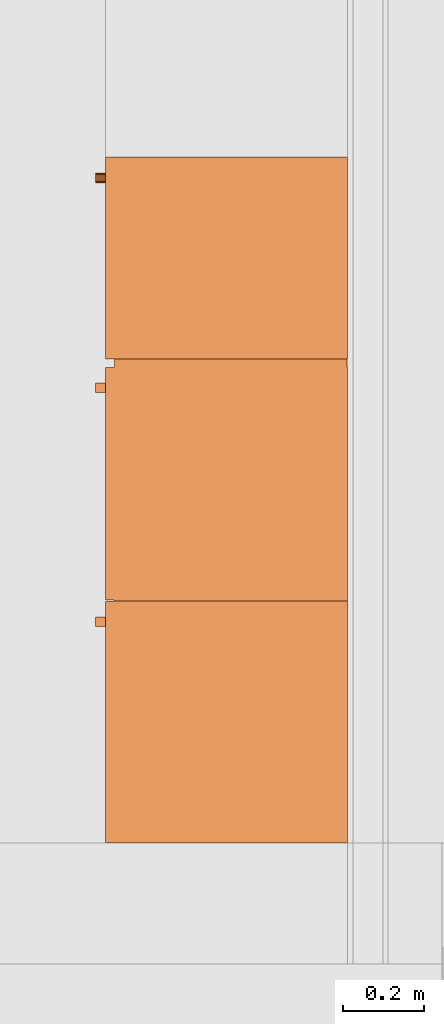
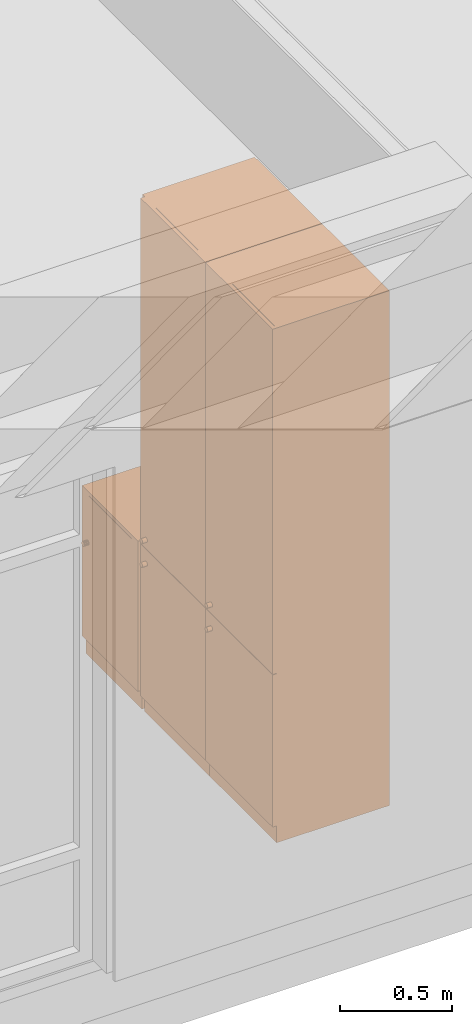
# One storey, part 80 of 167: 3 proxies.
"""IFC2X3 building model written with IfcOpenShell, lengths in millimetres."""

from ifc_helpers import new_model, entity, si_unit, converted_unit, derived_unit, money_unit, direction, frame, origin_with_axes, place, context, subcontext, project, spatial, faceted_brep, source, transform, mapped, type_object, type_shapes, element, save


model = new_model("IFC2X3")

# Units and contexts
model_context = context("Model", 3, precision=0.01, world=origin_with_axes(), true_north=direction((0.0, 1.0)))
plan_context = context("Plan", 3, precision=0.01, world=origin_with_axes(), true_north=direction((0.0, 1.0)))
body_context = subcontext(model_context, "Body", "Model", "MODEL_VIEW")
ifc_project = project(units=[si_unit("LENGTHUNIT", "METRE", prefix="MILLI"), si_unit("AREAUNIT", "SQUARE_METRE"), si_unit("VOLUMEUNIT", "CUBIC_METRE"), converted_unit("PLANEANGLEUNIT", "DEGREE", entity("IfcPlaneAngleMeasure", 0.0174532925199), si_unit("PLANEANGLEUNIT", "RADIAN"), dimensions=[0, 0, 0, 0, 0, 0, 0]), si_unit("SOLIDANGLEUNIT", "STERADIAN"), money_unit("EUR"), converted_unit("TIMEUNIT", "Year", entity("IfcTimeMeasure", 31556926.0), si_unit("TIMEUNIT", "SECOND"), dimensions=[0, 0, 1, 0, 0, 0, 0]), si_unit("MASSUNIT", "GRAM", prefix="KILO"), si_unit("THERMODYNAMICTEMPERATUREUNIT", "DEGREE_CELSIUS"), si_unit("LUMINOUSINTENSITYUNIT", "LUMEN"), si_unit("ENERGYUNIT", "JOULE", prefix="MEGA"), derived_unit("THERMALCONDUCTANCEUNIT", [(si_unit("POWERUNIT", "WATT"), 1), (si_unit("LENGTHUNIT", "METRE"), -1), (si_unit("THERMODYNAMICTEMPERATUREUNIT", "KELVIN"), -1)]), derived_unit("SPECIFICHEATCAPACITYUNIT", [(si_unit("ENERGYUNIT", "JOULE"), 1), (si_unit("MASSUNIT", "GRAM", prefix="KILO"), -1), (si_unit("THERMODYNAMICTEMPERATUREUNIT", "KELVIN"), -1)]), derived_unit("MASSDENSITYUNIT", [(si_unit("MASSUNIT", "GRAM", prefix="KILO"), 1), (si_unit("VOLUMEUNIT", "CUBIC_METRE"), -1)])], contexts=[model_context, plan_context])

# Site, building, storey
site_placement = place(None, origin_with_axes())
site = spatial("IfcSite", under=ifc_project, at=site_placement, Name="Site", CompositionType="ELEMENT")
building_placement = place(site_placement, origin_with_axes())
building = spatial("IfcBuilding", under=site, at=building_placement, Name="Naam gebouw", CompositionType="ELEMENT")
storey_placement = place(building_placement, origin_with_axes())
storey = spatial("IfcBuildingStorey", under=building, at=storey_placement, Name="Begane grond", CompositionType="ELEMENT", Elevation=0.0)

# Proxies
building_element_proxy_type_1 = type_object("IfcBuildingElementProxyType", Name="Kast basis 1D 24", PredefinedType="NOTDEFINED")
shared_shape_1 = source(origin_with_axes(), body_context, "Body", "Brep", [
    faceted_brep([(0.0, 20.0, 0.0), (0.0, 20.0, 100.0), (-500.0, 20.0, 100.0), (-500.0, 20.0, 0.0), (0.0, 600.0, 0.0), (0.0, 600.0, 100.0), (-500.0, 600.0, 100.0), (-500.0, 600.0, 0.0)], [[[0, 1, 2, 3]], [[4, 5, 1, 0]], [[1, 5, 6, 2]], [[3, 2, 6, 7]], [[0, 3, 7, 4]], [[7, 6, 5, 4]]]),
    faceted_brep([(0.0, 20.0, 880.0), (0.0, 20.0, 900.0), (-20.0, 20.0, 900.0), (-20.0, 20.0, 880.0), (0.0, 600.0, 880.0), (0.0, 600.0, 900.0), (-20.0, 600.0, 900.0), (-480.0, 600.0, 900.0), (-500.0, 600.0, 900.0), (-500.0, 20.0, 900.0), (-480.0, 20.0, 900.0), (-480.0, 20.0, 880.0), (-500.0, 20.0, 880.0), (-500.0, 600.0, 880.0), (-480.0, 600.0, 880.0), (-20.0, 600.0, 880.0)], [[[0, 1, 2, 3]], [[4, 5, 1, 0]], [[1, 5, 6, 7, 8, 9, 10, 2]], [[3, 2, 10, 11]], [[0, 3, 11, 12, 13, 14, 15, 4]], [[15, 6, 5, 4]], [[14, 7, 6, 15]], [[13, 8, 7, 14]], [[12, 9, 8, 13]], [[11, 10, 9, 12]]]),
    faceted_brep([(0.0, 20.0, 100.0), (0.0, 20.0, 120.0), (-20.0, 20.0, 120.0), (-20.0, 20.0, 100.0), (0.0, 600.0, 100.0), (0.0, 600.0, 120.0), (-20.0, 600.0, 120.0), (-480.0, 600.0, 120.0), (-500.0, 600.0, 120.0), (-500.0, 20.0, 120.0), (-480.0, 20.0, 120.0), (-480.0, 20.0, 100.0), (-500.0, 20.0, 100.0), (-500.0, 600.0, 100.0), (-480.0, 600.0, 100.0), (-20.0, 600.0, 100.0)], [[[0, 1, 2, 3]], [[4, 5, 1, 0]], [[1, 5, 6, 7, 8, 9, 10, 2]], [[3, 2, 10, 11]], [[0, 3, 11, 12, 13, 14, 15, 4]], [[15, 6, 5, 4]], [[14, 7, 6, 15]], [[13, 8, 7, 14]], [[12, 9, 8, 13]], [[11, 10, 9, 12]]]),
    faceted_brep([(0.0, 20.0, 120.0), (0.0, 20.0, 880.0), (-20.0, 20.0, 880.0), (-20.0, 20.0, 120.0), (0.0, 600.0, 120.0), (0.0, 600.0, 880.0), (-500.0, 600.0, 880.0), (-500.0, 20.0, 880.0), (-480.0, 20.0, 880.0), (-480.0, 580.0, 880.0), (-20.0, 580.0, 880.0), (-20.0, 580.0, 120.0), (-480.0, 580.0, 120.0), (-480.0, 20.0, 120.0), (-500.0, 20.0, 120.0), (-500.0, 600.0, 120.0)], [[[0, 1, 2, 3]], [[4, 5, 1, 0]], [[1, 5, 6, 7, 8, 9, 10, 2]], [[3, 2, 10, 11]], [[0, 3, 11, 12, 13, 14, 15, 4]], [[15, 6, 5, 4]], [[14, 7, 6, 15]], [[13, 8, 7, 14]], [[12, 9, 8, 13]], [[11, 10, 9, 12]]]),
    faceted_brep([(-480.0, 20.0, 480.0), (-480.0, 20.0, 500.0), (-480.0, 580.0, 500.0), (-480.0, 580.0, 480.0), (-20.0, 20.0, 480.0), (-20.0, 20.0, 500.0), (-20.0, 580.0, 500.0), (-20.0, 580.0, 480.0)], [[[0, 1, 2, 3]], [[4, 5, 1, 0]], [[1, 5, 6, 2]], [[3, 2, 6, 7]], [[0, 3, 7, 4]], [[7, 6, 5, 4]]]),
    faceted_brep([(0.0, 0.0, 900.0), (0.0, 0.0, 920.0), (-500.0, 0.0, 920.0), (-500.0, 0.0, 900.0), (0.0, 600.0, 900.0), (0.0, 600.0, 920.0), (-500.0, 600.0, 920.0), (-500.0, 600.0, 900.0)], [[[0, 1, 2, 3]], [[4, 5, 1, 0]], [[1, 5, 6, 2]], [[3, 2, 6, 7]], [[0, 3, 7, 4]], [[7, 6, 5, 4]]]),
    faceted_brep([(-1.5, 20.0, 101.5), (-1.5, 0.0, 101.5), (-498.5, 0.0, 101.5), (-498.5, 20.0, 101.5), (-1.5, 20.0, 898.5), (-1.5, 0.0, 898.5), (-498.5, 0.0, 898.5), (-498.5, 20.0, 898.5)], [[[0, 1, 2, 3]], [[4, 5, 1, 0]], [[1, 5, 6, 2]], [[3, 2, 6, 7]], [[0, 3, 7, 4]], [[7, 6, 5, 4]]]),
    faceted_brep([(-459.58655439, 0.0, 636.907798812), (-460.5, 0.0, 641.5), (-459.58655439, 0.0, 646.092201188), (-456.985281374, 0.0, 649.985281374), (-453.092201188, 0.0, 652.58655439), (-448.5, 0.0, 653.5), (-443.907798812, 0.0, 652.58655439), (-440.014718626, 0.0, 649.985281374), (-437.41344561, 0.0, 646.092201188), (-436.5, 0.0, 641.5), (-437.41344561, 0.0, 636.907798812), (-440.014718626, 0.0, 633.014718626), (-443.907798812, 0.0, 630.41344561), (-448.5, 0.0, 629.5), (-453.092201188, 0.0, 630.41344561), (-456.985281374, 0.0, 633.014718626), (-459.58655439, -25.0, 636.907798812), (-460.5, -25.0, 641.5), (-459.58655439, -25.0, 646.092201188), (-456.985281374, -25.0, 649.985281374), (-453.092201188, -25.0, 652.58655439), (-448.5, -25.0, 653.5), (-443.907798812, -25.0, 652.58655439), (-440.014718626, -25.0, 649.985281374), (-437.41344561, -25.0, 646.092201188), (-436.5, -25.0, 641.5), (-437.41344561, -25.0, 636.907798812), (-440.014718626, -25.0, 633.014718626), (-443.907798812, -25.0, 630.41344561), (-448.5, -25.0, 629.5), (-453.092201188, -25.0, 630.41344561), (-456.985281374, -25.0, 633.014718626)], [[[0, 1, 2, 3, 4, 5, 6, 7, 8, 9, 10, 11, 12, 13, 14, 15]], [[0, 16, 17, 1]], [[1, 17, 18, 2]], [[2, 18, 19, 3]], [[3, 19, 20, 4]], [[4, 20, 21, 5]], [[5, 21, 22, 6]], [[6, 22, 23, 7]], [[7, 23, 24, 8]], [[8, 24, 25, 9]], [[9, 25, 26, 10]], [[10, 26, 27, 11]], [[11, 27, 28, 12]], [[12, 28, 29, 13]], [[13, 29, 30, 14]], [[14, 30, 31, 15]], [[15, 31, 16, 0]], [[16, 31, 30, 29, 28, 27, 26, 25, 24, 23, 22, 21, 20, 19, 18, 17]]]),
])
type_shapes(building_element_proxy_type_1, [shared_shape_1])
proxy_1_placement = place(storey_placement, frame((9881.82723445, 2100.0, 0.0), z_axis=(0.0, 0.0, 1.0), x_axis=(0.0, -1.0, 0.0)))
element("IfcBuildingElementProxy", 1, at=proxy_1_placement, inside=storey, type_object=building_element_proxy_type_1, Name="__Object-x", context=body_context, shape_type="MappedRepresentation", body=[
    mapped(shared_shape_1, transform((0.0, 0.0, 0.0))),
])
building_element_proxy_type_2 = type_object("IfcBuildingElementProxyType", Name="Kast hoog 1D 24", PredefinedType="NOTDEFINED")
shared_shape_2 = source(origin_with_axes(), body_context, "Body", "Brep", [
    faceted_brep([(-20.0, 20.0, 910.0), (-20.0, 20.0, 930.0), (-580.0, 20.0, 930.0), (-580.0, 20.0, 910.0), (-20.0, 580.0, 910.0), (-20.0, 580.0, 930.0), (-580.0, 580.0, 930.0), (-580.0, 580.0, 910.0)], [[[0, 1, 2, 3]], [[4, 5, 1, 0]], [[1, 5, 6, 2]], [[3, 2, 6, 7]], [[0, 3, 7, 4]], [[7, 6, 5, 4]]]),
    faceted_brep([(0.0, 20.0, 0.0), (0.0, 20.0, 90.0), (-600.0, 20.0, 90.0), (-600.0, 20.0, 0.0), (0.0, 600.0, 0.0), (0.0, 600.0, 90.0), (-600.0, 600.0, 90.0), (-600.0, 600.0, 0.0)], [[[0, 1, 2, 3]], [[4, 5, 1, 0]], [[1, 5, 6, 2]], [[3, 2, 6, 7]], [[0, 3, 7, 4]], [[7, 6, 5, 4]]]),
    faceted_brep([(0.0, 20.0, 2780.0), (0.0, 20.0, 2800.0), (-20.0, 20.0, 2800.0), (-20.0, 20.0, 2780.0), (0.0, 600.0, 2780.0), (0.0, 600.0, 2800.0), (-20.0, 600.0, 2800.0), (-580.0, 600.0, 2800.0), (-600.0, 600.0, 2800.0), (-600.0, 20.0, 2800.0), (-580.0, 20.0, 2800.0), (-580.0, 20.0, 2780.0), (-600.0, 20.0, 2780.0), (-600.0, 600.0, 2780.0), (-580.0, 600.0, 2780.0), (-20.0, 600.0, 2780.0)], [[[0, 1, 2, 3]], [[4, 5, 1, 0]], [[1, 5, 6, 7, 8, 9, 10, 2]], [[3, 2, 10, 11]], [[0, 3, 11, 12, 13, 14, 15, 4]], [[15, 6, 5, 4]], [[14, 7, 6, 15]], [[13, 8, 7, 14]], [[12, 9, 8, 13]], [[11, 10, 9, 12]]]),
    faceted_brep([(0.0, 20.0, 90.0), (0.0, 20.0, 110.0), (-20.0, 20.0, 110.0), (-20.0, 20.0, 90.0), (0.0, 600.0, 90.0), (0.0, 600.0, 110.0), (-20.0, 600.0, 110.0), (-580.0, 600.0, 110.0), (-600.0, 600.0, 110.0), (-600.0, 20.0, 110.0), (-580.0, 20.0, 110.0), (-580.0, 20.0, 90.0), (-600.0, 20.0, 90.0), (-600.0, 600.0, 90.0), (-580.0, 600.0, 90.0), (-20.0, 600.0, 90.0)], [[[0, 1, 2, 3]], [[4, 5, 1, 0]], [[1, 5, 6, 7, 8, 9, 10, 2]], [[3, 2, 10, 11]], [[0, 3, 11, 12, 13, 14, 15, 4]], [[15, 6, 5, 4]], [[14, 7, 6, 15]], [[13, 8, 7, 14]], [[12, 9, 8, 13]], [[11, 10, 9, 12]]]),
    faceted_brep([(0.0, 20.0, 110.0), (0.0, 20.0, 2780.0), (-20.0, 20.0, 2780.0), (-20.0, 20.0, 110.0), (0.0, 600.0, 110.0), (0.0, 600.0, 2780.0), (-600.0, 600.0, 2780.0), (-600.0, 20.0, 2780.0), (-580.0, 20.0, 2780.0), (-580.0, 580.0, 2780.0), (-20.0, 580.0, 2780.0), (-20.0, 580.0, 110.0), (-580.0, 580.0, 110.0), (-580.0, 20.0, 110.0), (-600.0, 20.0, 110.0), (-600.0, 600.0, 110.0)], [[[0, 1, 2, 3]], [[4, 5, 1, 0]], [[1, 5, 6, 7, 8, 9, 10, 2]], [[3, 2, 10, 11]], [[0, 3, 11, 12, 13, 14, 15, 4]], [[15, 6, 5, 4]], [[14, 7, 6, 15]], [[13, 8, 7, 14]], [[12, 9, 8, 13]], [[11, 10, 9, 12]]]),
    faceted_brep([(-580.0, 20.0, 353.333333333), (-580.0, 20.0, 373.333333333), (-580.0, 580.0, 373.333333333), (-580.0, 580.0, 353.333333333), (-20.0, 20.0, 353.333333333), (-20.0, 20.0, 373.333333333), (-20.0, 580.0, 373.333333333), (-20.0, 580.0, 353.333333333)], [[[0, 1, 2, 3]], [[4, 5, 1, 0]], [[1, 5, 6, 2]], [[3, 2, 6, 7]], [[0, 3, 7, 4]], [[7, 6, 5, 4]]]),
    faceted_brep([(-580.0, 20.0, 636.666666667), (-580.0, 20.0, 656.666666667), (-580.0, 580.0, 656.666666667), (-580.0, 580.0, 636.666666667), (-20.0, 20.0, 636.666666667), (-20.0, 20.0, 656.666666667), (-20.0, 580.0, 656.666666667), (-20.0, 580.0, 636.666666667)], [[[0, 1, 2, 3]], [[4, 5, 1, 0]], [[1, 5, 6, 2]], [[3, 2, 6, 7]], [[0, 3, 7, 4]], [[7, 6, 5, 4]]]),
    faceted_brep([(-1.5, 20.0, 91.5), (-1.5, 0.0, 91.5), (-598.5, 0.0, 91.5), (-598.5, 20.0, 91.5), (-1.5, 20.0, 918.5), (-1.5, 0.0, 918.5), (-598.5, 0.0, 918.5), (-598.5, 20.0, 918.5)], [[[0, 1, 2, 3]], [[4, 5, 1, 0]], [[1, 5, 6, 2]], [[3, 2, 6, 7]], [[0, 3, 7, 4]], [[7, 6, 5, 4]]]),
    faceted_brep([(-560.091109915, 0.0, 838.394171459), (-560.5, 0.0, 841.5), (-560.091109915, 0.0, 844.605828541), (-558.892304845, 0.0, 847.5), (-556.985281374, 0.0, 849.985281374), (-554.5, 0.0, 851.892304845), (-551.605828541, 0.0, 853.091109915), (-548.5, 0.0, 853.5), (-545.394171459, 0.0, 853.091109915), (-542.5, 0.0, 851.892304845), (-540.014718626, 0.0, 849.985281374), (-538.107695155, 0.0, 847.5), (-536.908890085, 0.0, 844.605828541), (-536.5, 0.0, 841.5), (-536.908890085, 0.0, 838.394171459), (-538.107695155, 0.0, 835.5), (-540.014718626, 0.0, 833.014718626), (-542.5, 0.0, 831.107695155), (-545.394171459, 0.0, 829.908890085), (-548.5, 0.0, 829.5), (-551.605828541, 0.0, 829.908890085), (-554.5, 0.0, 831.107695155), (-556.985281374, 0.0, 833.014718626), (-558.892304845, 0.0, 835.5), (-560.091109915, -25.0, 838.394171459), (-560.5, -25.0, 841.5), (-560.091109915, -25.0, 844.605828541), (-558.892304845, -25.0, 847.5), (-556.985281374, -25.0, 849.985281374), (-554.5, -25.0, 851.892304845), (-551.605828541, -25.0, 853.091109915), (-548.5, -25.0, 853.5), (-545.394171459, -25.0, 853.091109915), (-542.5, -25.0, 851.892304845), (-540.014718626, -25.0, 849.985281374), (-538.107695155, -25.0, 847.5), (-536.908890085, -25.0, 844.605828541), (-536.5, -25.0, 841.5), (-536.908890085, -25.0, 838.394171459), (-538.107695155, -25.0, 835.5), (-540.014718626, -25.0, 833.014718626), (-542.5, -25.0, 831.107695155), (-545.394171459, -25.0, 829.908890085), (-548.5, -25.0, 829.5), (-551.605828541, -25.0, 829.908890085), (-554.5, -25.0, 831.107695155), (-556.985281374, -25.0, 833.014718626), (-558.892304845, -25.0, 835.5)], [[[0, 1, 2, 3, 4, 5, 6, 7, 8, 9, 10, 11, 12, 13, 14, 15, 16, 17, 18, 19, 20, 21, 22, 23]], [[0, 24, 25, 1]], [[1, 25, 26, 2]], [[2, 26, 27, 3]], [[3, 27, 28, 4]], [[4, 28, 29, 5]], [[5, 29, 30, 6]], [[6, 30, 31, 7]], [[7, 31, 32, 8]], [[8, 32, 33, 9]], [[9, 33, 34, 10]], [[10, 34, 35, 11]], [[11, 35, 36, 12]], [[12, 36, 37, 13]], [[13, 37, 38, 14]], [[14, 38, 39, 15]], [[15, 39, 40, 16]], [[16, 40, 41, 17]], [[17, 41, 42, 18]], [[18, 42, 43, 19]], [[19, 43, 44, 20]], [[20, 44, 45, 21]], [[21, 45, 46, 22]], [[22, 46, 47, 23]], [[23, 47, 24, 0]], [[24, 47, 46, 45, 44, 43, 42, 41, 40, 39, 38, 37, 36, 35, 34, 33, 32, 31, 30, 29, 28, 27, 26, 25]]]),
    faceted_brep([(-1.5, 20.0, 921.5), (-1.5, 0.0, 921.5), (-598.5, 0.0, 921.5), (-598.5, 20.0, 921.5), (-1.5, 20.0, 2798.5), (-1.5, 0.0, 2798.5), (-598.5, 0.0, 2798.5), (-598.5, 20.0, 2798.5)], [[[0, 1, 2, 3]], [[4, 5, 1, 0]], [[1, 5, 6, 2]], [[3, 2, 6, 7]], [[0, 3, 7, 4]], [[7, 6, 5, 4]]]),
    faceted_brep([(-560.091109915, 0.0, 968.394171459), (-560.5, 0.0, 971.5), (-560.091109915, 0.0, 974.605828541), (-558.892304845, 0.0, 977.5), (-556.985281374, 0.0, 979.985281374), (-554.5, 0.0, 981.892304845), (-551.605828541, 0.0, 983.091109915), (-548.5, 0.0, 983.5), (-545.394171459, 0.0, 983.091109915), (-542.5, 0.0, 981.892304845), (-540.014718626, 0.0, 979.985281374), (-538.107695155, 0.0, 977.5), (-536.908890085, 0.0, 974.605828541), (-536.5, 0.0, 971.5), (-536.908890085, 0.0, 968.394171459), (-538.107695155, 0.0, 965.5), (-540.014718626, 0.0, 963.014718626), (-542.5, 0.0, 961.107695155), (-545.394171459, 0.0, 959.908890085), (-548.5, 0.0, 959.5), (-551.605828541, 0.0, 959.908890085), (-554.5, 0.0, 961.107695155), (-556.985281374, 0.0, 963.014718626), (-558.892304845, 0.0, 965.5), (-560.091109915, -25.0, 968.394171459), (-560.5, -25.0, 971.5), (-560.091109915, -25.0, 974.605828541), (-558.892304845, -25.0, 977.5), (-556.985281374, -25.0, 979.985281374), (-554.5, -25.0, 981.892304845), (-551.605828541, -25.0, 983.091109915), (-548.5, -25.0, 983.5), (-545.394171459, -25.0, 983.091109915), (-542.5, -25.0, 981.892304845), (-540.014718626, -25.0, 979.985281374), (-538.107695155, -25.0, 977.5), (-536.908890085, -25.0, 974.605828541), (-536.5, -25.0, 971.5), (-536.908890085, -25.0, 968.394171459), (-538.107695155, -25.0, 965.5), (-540.014718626, -25.0, 963.014718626), (-542.5, -25.0, 961.107695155), (-545.394171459, -25.0, 959.908890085), (-548.5, -25.0, 959.5), (-551.605828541, -25.0, 959.908890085), (-554.5, -25.0, 961.107695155), (-556.985281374, -25.0, 963.014718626), (-558.892304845, -25.0, 965.5)], [[[0, 1, 2, 3, 4, 5, 6, 7, 8, 9, 10, 11, 12, 13, 14, 15, 16, 17, 18, 19, 20, 21, 22, 23]], [[0, 24, 25, 1]], [[1, 25, 26, 2]], [[2, 26, 27, 3]], [[3, 27, 28, 4]], [[4, 28, 29, 5]], [[5, 29, 30, 6]], [[6, 30, 31, 7]], [[7, 31, 32, 8]], [[8, 32, 33, 9]], [[9, 33, 34, 10]], [[10, 34, 35, 11]], [[11, 35, 36, 12]], [[12, 36, 37, 13]], [[13, 37, 38, 14]], [[14, 38, 39, 15]], [[15, 39, 40, 16]], [[16, 40, 41, 17]], [[17, 41, 42, 18]], [[18, 42, 43, 19]], [[19, 43, 44, 20]], [[20, 44, 45, 21]], [[21, 45, 46, 22]], [[22, 46, 47, 23]], [[23, 47, 24, 0]], [[24, 47, 46, 45, 44, 43, 42, 41, 40, 39, 38, 37, 36, 35, 34, 33, 32, 31, 30, 29, 28, 27, 26, 25]]]),
])
proxy_2_placement = place(storey_placement, frame((9881.82723445, 900.0, 0.0), z_axis=(0.0, 0.0, 1.0), x_axis=(0.0, -1.0, 0.0)))
element("IfcBuildingElementProxy", 2, at=proxy_2_placement, inside=storey, type_object=building_element_proxy_type_2, Name="__Object-x", context=body_context, shape_type="MappedRepresentation", body=[
    mapped(shared_shape_2, transform((0.0, 0.0, 0.0))),
])
shared_shape_3 = source(origin_with_axes(), body_context, "Body", "Brep", [
    faceted_brep([(-20.0, 20.0, 910.0), (-20.0, 20.0, 930.0), (-560.0, 20.0, 930.0), (-560.0, 20.0, 910.0), (-20.0, 580.0, 910.0), (-20.0, 580.0, 930.0), (-560.0, 580.0, 930.0), (-560.0, 580.0, 910.0)], [[[0, 1, 2, 3]], [[4, 5, 1, 0]], [[1, 5, 6, 2]], [[3, 2, 6, 7]], [[0, 3, 7, 4]], [[7, 6, 5, 4]]]),
    faceted_brep([(0.0, 20.0, 0.0), (0.0, 20.0, 90.0), (-580.0, 20.0, 90.0), (-580.0, 20.0, 0.0), (0.0, 600.0, 0.0), (0.0, 600.0, 90.0), (-580.0, 600.0, 90.0), (-580.0, 600.0, 0.0)], [[[0, 1, 2, 3]], [[4, 5, 1, 0]], [[1, 5, 6, 2]], [[3, 2, 6, 7]], [[0, 3, 7, 4]], [[7, 6, 5, 4]]]),
    faceted_brep([(0.0, 20.0, 2780.0), (0.0, 20.0, 2800.0), (-20.0, 20.0, 2800.0), (-20.0, 20.0, 2780.0), (0.0, 600.0, 2780.0), (0.0, 600.0, 2800.0), (-20.0, 600.0, 2800.0), (-560.0, 600.0, 2800.0), (-580.0, 600.0, 2800.0), (-580.0, 20.0, 2800.0), (-560.0, 20.0, 2800.0), (-560.0, 20.0, 2780.0), (-580.0, 20.0, 2780.0), (-580.0, 600.0, 2780.0), (-560.0, 600.0, 2780.0), (-20.0, 600.0, 2780.0)], [[[0, 1, 2, 3]], [[4, 5, 1, 0]], [[1, 5, 6, 7, 8, 9, 10, 2]], [[3, 2, 10, 11]], [[0, 3, 11, 12, 13, 14, 15, 4]], [[15, 6, 5, 4]], [[14, 7, 6, 15]], [[13, 8, 7, 14]], [[12, 9, 8, 13]], [[11, 10, 9, 12]]]),
    faceted_brep([(0.0, 20.0, 90.0), (0.0, 20.0, 110.0), (-20.0, 20.0, 110.0), (-20.0, 20.0, 90.0), (0.0, 600.0, 90.0), (0.0, 600.0, 110.0), (-20.0, 600.0, 110.0), (-560.0, 600.0, 110.0), (-580.0, 600.0, 110.0), (-580.0, 20.0, 110.0), (-560.0, 20.0, 110.0), (-560.0, 20.0, 90.0), (-580.0, 20.0, 90.0), (-580.0, 600.0, 90.0), (-560.0, 600.0, 90.0), (-20.0, 600.0, 90.0)], [[[0, 1, 2, 3]], [[4, 5, 1, 0]], [[1, 5, 6, 7, 8, 9, 10, 2]], [[3, 2, 10, 11]], [[0, 3, 11, 12, 13, 14, 15, 4]], [[15, 6, 5, 4]], [[14, 7, 6, 15]], [[13, 8, 7, 14]], [[12, 9, 8, 13]], [[11, 10, 9, 12]]]),
    faceted_brep([(0.0, 20.0, 110.0), (0.0, 20.0, 2780.0), (-20.0, 20.0, 2780.0), (-20.0, 20.0, 110.0), (0.0, 600.0, 110.0), (0.0, 600.0, 2780.0), (-580.0, 600.0, 2780.0), (-580.0, 20.0, 2780.0), (-560.0, 20.0, 2780.0), (-560.0, 580.0, 2780.0), (-20.0, 580.0, 2780.0), (-20.0, 580.0, 110.0), (-560.0, 580.0, 110.0), (-560.0, 20.0, 110.0), (-580.0, 20.0, 110.0), (-580.0, 600.0, 110.0)], [[[0, 1, 2, 3]], [[4, 5, 1, 0]], [[1, 5, 6, 7, 8, 9, 10, 2]], [[3, 2, 10, 11]], [[0, 3, 11, 12, 13, 14, 15, 4]], [[15, 6, 5, 4]], [[14, 7, 6, 15]], [[13, 8, 7, 14]], [[12, 9, 8, 13]], [[11, 10, 9, 12]]]),
    faceted_brep([(-560.0, 20.0, 353.333333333), (-560.0, 20.0, 373.333333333), (-560.0, 580.0, 373.333333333), (-560.0, 580.0, 353.333333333), (-20.0, 20.0, 353.333333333), (-20.0, 20.0, 373.333333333), (-20.0, 580.0, 373.333333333), (-20.0, 580.0, 353.333333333)], [[[0, 1, 2, 3]], [[4, 5, 1, 0]], [[1, 5, 6, 2]], [[3, 2, 6, 7]], [[0, 3, 7, 4]], [[7, 6, 5, 4]]]),
    faceted_brep([(-560.0, 20.0, 636.666666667), (-560.0, 20.0, 656.666666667), (-560.0, 580.0, 656.666666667), (-560.0, 580.0, 636.666666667), (-20.0, 20.0, 636.666666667), (-20.0, 20.0, 656.666666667), (-20.0, 580.0, 656.666666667), (-20.0, 580.0, 636.666666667)], [[[0, 1, 2, 3]], [[4, 5, 1, 0]], [[1, 5, 6, 2]], [[3, 2, 6, 7]], [[0, 3, 7, 4]], [[7, 6, 5, 4]]]),
    faceted_brep([(-1.5, 20.0, 91.5), (-1.5, 0.0, 91.5), (-578.5, 0.0, 91.5), (-578.5, 20.0, 91.5), (-1.5, 20.0, 918.5), (-1.5, 0.0, 918.5), (-578.5, 0.0, 918.5), (-578.5, 20.0, 918.5)], [[[0, 1, 2, 3]], [[4, 5, 1, 0]], [[1, 5, 6, 2]], [[3, 2, 6, 7]], [[0, 3, 7, 4]], [[7, 6, 5, 4]]]),
    faceted_brep([(-540.091109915, 0.0, 838.394171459), (-540.5, 0.0, 841.5), (-540.091109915, 0.0, 844.605828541), (-538.892304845, 0.0, 847.5), (-536.985281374, 0.0, 849.985281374), (-534.5, 0.0, 851.892304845), (-531.605828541, 0.0, 853.091109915), (-528.5, 0.0, 853.5), (-525.394171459, 0.0, 853.091109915), (-522.5, 0.0, 851.892304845), (-520.014718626, 0.0, 849.985281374), (-518.107695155, 0.0, 847.5), (-516.908890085, 0.0, 844.605828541), (-516.5, 0.0, 841.5), (-516.908890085, 0.0, 838.394171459), (-518.107695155, 0.0, 835.5), (-520.014718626, 0.0, 833.014718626), (-522.5, 0.0, 831.107695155), (-525.394171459, 0.0, 829.908890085), (-528.5, 0.0, 829.5), (-531.605828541, 0.0, 829.908890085), (-534.5, 0.0, 831.107695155), (-536.985281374, 0.0, 833.014718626), (-538.892304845, 0.0, 835.5), (-540.091109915, -25.0, 838.394171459), (-540.5, -25.0, 841.5), (-540.091109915, -25.0, 844.605828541), (-538.892304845, -25.0, 847.5), (-536.985281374, -25.0, 849.985281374), (-534.5, -25.0, 851.892304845), (-531.605828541, -25.0, 853.091109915), (-528.5, -25.0, 853.5), (-525.394171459, -25.0, 853.091109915), (-522.5, -25.0, 851.892304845), (-520.014718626, -25.0, 849.985281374), (-518.107695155, -25.0, 847.5), (-516.908890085, -25.0, 844.605828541), (-516.5, -25.0, 841.5), (-516.908890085, -25.0, 838.394171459), (-518.107695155, -25.0, 835.5), (-520.014718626, -25.0, 833.014718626), (-522.5, -25.0, 831.107695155), (-525.394171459, -25.0, 829.908890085), (-528.5, -25.0, 829.5), (-531.605828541, -25.0, 829.908890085), (-534.5, -25.0, 831.107695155), (-536.985281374, -25.0, 833.014718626), (-538.892304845, -25.0, 835.5)], [[[0, 1, 2, 3, 4, 5, 6, 7, 8, 9, 10, 11, 12, 13, 14, 15, 16, 17, 18, 19, 20, 21, 22, 23]], [[0, 24, 25, 1]], [[1, 25, 26, 2]], [[2, 26, 27, 3]], [[3, 27, 28, 4]], [[4, 28, 29, 5]], [[5, 29, 30, 6]], [[6, 30, 31, 7]], [[7, 31, 32, 8]], [[8, 32, 33, 9]], [[9, 33, 34, 10]], [[10, 34, 35, 11]], [[11, 35, 36, 12]], [[12, 36, 37, 13]], [[13, 37, 38, 14]], [[14, 38, 39, 15]], [[15, 39, 40, 16]], [[16, 40, 41, 17]], [[17, 41, 42, 18]], [[18, 42, 43, 19]], [[19, 43, 44, 20]], [[20, 44, 45, 21]], [[21, 45, 46, 22]], [[22, 46, 47, 23]], [[23, 47, 24, 0]], [[24, 47, 46, 45, 44, 43, 42, 41, 40, 39, 38, 37, 36, 35, 34, 33, 32, 31, 30, 29, 28, 27, 26, 25]]]),
    faceted_brep([(-1.5, 20.0, 921.5), (-1.5, 0.0, 921.5), (-578.5, 0.0, 921.5), (-578.5, 20.0, 921.5), (-1.5, 20.0, 2798.5), (-1.5, 0.0, 2798.5), (-578.5, 0.0, 2798.5), (-578.5, 20.0, 2798.5)], [[[0, 1, 2, 3]], [[4, 5, 1, 0]], [[1, 5, 6, 2]], [[3, 2, 6, 7]], [[0, 3, 7, 4]], [[7, 6, 5, 4]]]),
    faceted_brep([(-540.091109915, 0.0, 968.394171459), (-540.5, 0.0, 971.5), (-540.091109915, 0.0, 974.605828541), (-538.892304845, 0.0, 977.5), (-536.985281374, 0.0, 979.985281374), (-534.5, 0.0, 981.892304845), (-531.605828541, 0.0, 983.091109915), (-528.5, 0.0, 983.5), (-525.394171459, 0.0, 983.091109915), (-522.5, 0.0, 981.892304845), (-520.014718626, 0.0, 979.985281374), (-518.107695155, 0.0, 977.5), (-516.908890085, 0.0, 974.605828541), (-516.5, 0.0, 971.5), (-516.908890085, 0.0, 968.394171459), (-518.107695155, 0.0, 965.5), (-520.014718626, 0.0, 963.014718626), (-522.5, 0.0, 961.107695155), (-525.394171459, 0.0, 959.908890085), (-528.5, 0.0, 959.5), (-531.605828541, 0.0, 959.908890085), (-534.5, 0.0, 961.107695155), (-536.985281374, 0.0, 963.014718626), (-538.892304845, 0.0, 965.5), (-540.091109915, -25.0, 968.394171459), (-540.5, -25.0, 971.5), (-540.091109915, -25.0, 974.605828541), (-538.892304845, -25.0, 977.5), (-536.985281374, -25.0, 979.985281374), (-534.5, -25.0, 981.892304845), (-531.605828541, -25.0, 983.091109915), (-528.5, -25.0, 983.5), (-525.394171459, -25.0, 983.091109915), (-522.5, -25.0, 981.892304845), (-520.014718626, -25.0, 979.985281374), (-518.107695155, -25.0, 977.5), (-516.908890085, -25.0, 974.605828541), (-516.5, -25.0, 971.5), (-516.908890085, -25.0, 968.394171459), (-518.107695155, -25.0, 965.5), (-520.014718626, -25.0, 963.014718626), (-522.5, -25.0, 961.107695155), (-525.394171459, -25.0, 959.908890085), (-528.5, -25.0, 959.5), (-531.605828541, -25.0, 959.908890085), (-534.5, -25.0, 961.107695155), (-536.985281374, -25.0, 963.014718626), (-538.892304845, -25.0, 965.5)], [[[0, 1, 2, 3, 4, 5, 6, 7, 8, 9, 10, 11, 12, 13, 14, 15, 16, 17, 18, 19, 20, 21, 22, 23]], [[0, 24, 25, 1]], [[1, 25, 26, 2]], [[2, 26, 27, 3]], [[3, 27, 28, 4]], [[4, 28, 29, 5]], [[5, 29, 30, 6]], [[6, 30, 31, 7]], [[7, 31, 32, 8]], [[8, 32, 33, 9]], [[9, 33, 34, 10]], [[10, 34, 35, 11]], [[11, 35, 36, 12]], [[12, 36, 37, 13]], [[13, 37, 38, 14]], [[14, 38, 39, 15]], [[15, 39, 40, 16]], [[16, 40, 41, 17]], [[17, 41, 42, 18]], [[18, 42, 43, 19]], [[19, 43, 44, 20]], [[20, 44, 45, 21]], [[21, 45, 46, 22]], [[22, 46, 47, 23]], [[23, 47, 24, 0]], [[24, 47, 46, 45, 44, 43, 42, 41, 40, 39, 38, 37, 36, 35, 34, 33, 32, 31, 30, 29, 28, 27, 26, 25]]]),
    faceted_brep([(-580.0, 21.5, 91.5), (-600.0, 21.5, 91.5), (-600.0, 598.5, 91.5), (-580.0, 598.5, 91.5), (-580.0, 21.5, 918.5), (-600.0, 21.5, 918.5), (-600.0, 598.5, 918.5), (-580.0, 598.5, 918.5)], [[[0, 1, 2, 3]], [[4, 5, 1, 0]], [[1, 5, 6, 2]], [[3, 2, 6, 7]], [[0, 3, 7, 4]], [[7, 6, 5, 4]]]),
    faceted_brep([(-580.0, 21.5, 921.5), (-600.0, 21.5, 921.5), (-600.0, 598.5, 921.5), (-580.0, 598.5, 921.5), (-580.0, 21.5, 2798.5), (-600.0, 21.5, 2798.5), (-600.0, 598.5, 2798.5), (-580.0, 598.5, 2798.5)], [[[0, 1, 2, 3]], [[4, 5, 1, 0]], [[1, 5, 6, 2]], [[3, 2, 6, 7]], [[0, 3, 7, 4]], [[7, 6, 5, 4]]]),
])
type_shapes(building_element_proxy_type_2, [shared_shape_2, shared_shape_3])
proxy_3_placement = place(storey_placement, frame((9881.82723445, 1500.0, 0.0), z_axis=(0.0, 0.0, 1.0), x_axis=(0.0, -1.0, 0.0)))
element("IfcBuildingElementProxy", 3, at=proxy_3_placement, inside=storey, type_object=building_element_proxy_type_2, Name="__Object-x", context=body_context, shape_type="MappedRepresentation", body=[
    mapped(shared_shape_3, transform((0.0, 0.0, 0.0))),
])

save(model, "model.ifc")
